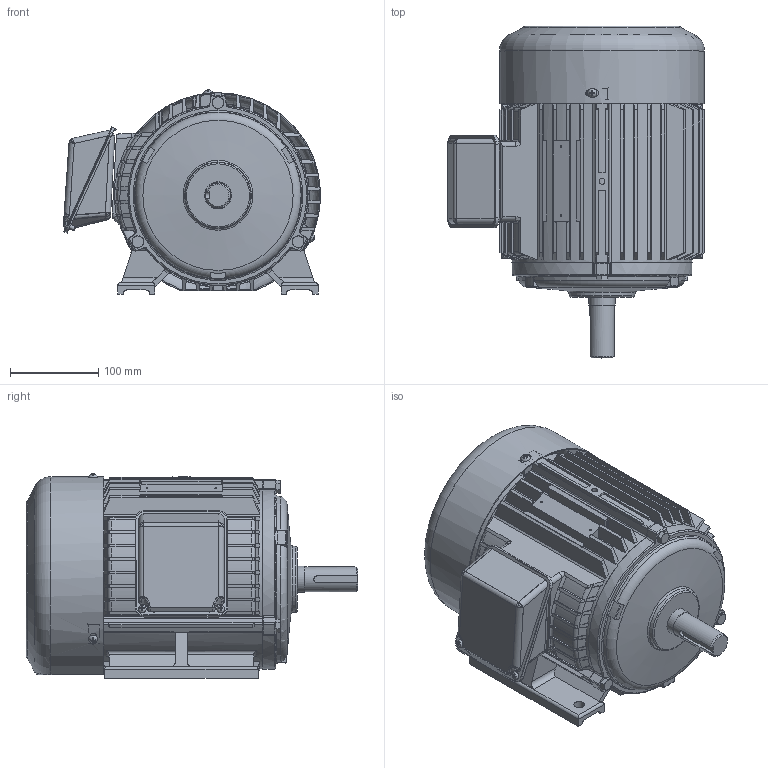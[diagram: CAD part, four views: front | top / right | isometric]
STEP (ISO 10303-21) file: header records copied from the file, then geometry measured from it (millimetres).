
FILE_DESCRIPTION(/* description */ ('Unknown'),/* implementation_level */ '2;1');
FILE_NAME(/* name */ '1-SMA-39254_외형도(194DIA)',/* time_stamp */ '2026-07-24T08:27:11+09:00',/* author */ ('Unknown'),/* organization */ ('Unknown'),/* preprocessor_version */ 'ST-DEVELOPER v16',/* originating_system */ 'DEX',/* authorisation */ $);
FILE_SCHEMA (('AUTOMOTIVE_DESIGN {1 0 10303 214 3 1 1}'));
Length unit declared in the file: millimetre
Products named in the file (14): 1-SMA-39254_¿ÜÇüµµ(194DIxÆÖÄ³(; 2-SMA-38823_FRAME(194DIA); 3-SMA-30871N_¾Õºê¶óÄÏ(194D^Å¾|·Ï(; 4-SMA-30872N_菴粽塭鰍(194D; 5-SMA-39078_SHAFT(194DIA); 6-SMA-31242_FAN(160DIA); 7-SMA-30644_FAN COVER(194DIA); 8-SMA-33042_T-BOX(鼻)(194DIA)$; 9-SMA-33043_T-BOX(ж)(194DIA); µÕ±Ù ½ÊÀÚ M5x0.8x((õ; 幫陝獐お M8x1.25x; 6205ZZ; 菅斬 褊濠 M6x1x; 6206ZZ
Assembly tree (21 placements, depth 2):
  1-SMA-39254_¿ÜÇüµµ(194DIxÆÖÄ³(
    2-SMA-38823_FRAME(194DIA)
    3-SMA-30871N_¾Õºê¶óÄÏ(194D^Å¾|·Ï(
    4-SMA-30872N_菴粽塭鰍(194D
    5-SMA-39078_SHAFT(194DIA)
    6-SMA-31242_FAN(160DIA)
    7-SMA-30644_FAN COVER(194DIA)
    8-SMA-33042_T-BOX(鼻)(194DIA)$
    9-SMA-33043_T-BOX(ж)(194DIA)
    µÕ±Ù ½ÊÀÚ M5x0.8x((õ  x2
    幫陝獐お M8x1.25x  x6
    6205ZZ
    菅斬 褊濠 M6x1x  x3
    6206ZZ
Bounding box: 291.26 x 376 x 231.52 mm (x, y, z)
Volume: 2324001.6 mm3; surface area: 1016627.3 mm2
Topology: 43 solids, 43 shells, 1648 faces, 4275 edges, 2738 vertices
Faces by surface type: plane 619, cylinder 544, cone 334, torus 85, bspline 43, sphere 23
Full cylindrical faces by diameter (mm): 2.2 x2, 4.134 x2, 4.917 x6, 5 x2, 6 x8, 6.647 x13, 7 x2, 8 x12, 10 x6, 12 x4, 18.2 x2, 24.8 x1, 25 x2, 25.6 x1, 28 x2, 29.8 x1, 30 x2, 30.6 x1, 31.1 x1, 32.714 x2, 33.114 x2, 34 x1, 35 x2, 39.143 x2, 39.543 x2, 40 x1, 43.886 x2, 44.286 x2, 52 x2, 52.457 x2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
Entity records: 62643 total; most frequent: CARTESIAN_POINT 22347, ORIENTED_EDGE 7306, DIRECTION 7202, EDGE_CURVE 3653, AXIS2_PLACEMENT_3D 2879, VERTEX_POINT 2452, FACE_BOUND 1829, EDGE_LOOP 1805
